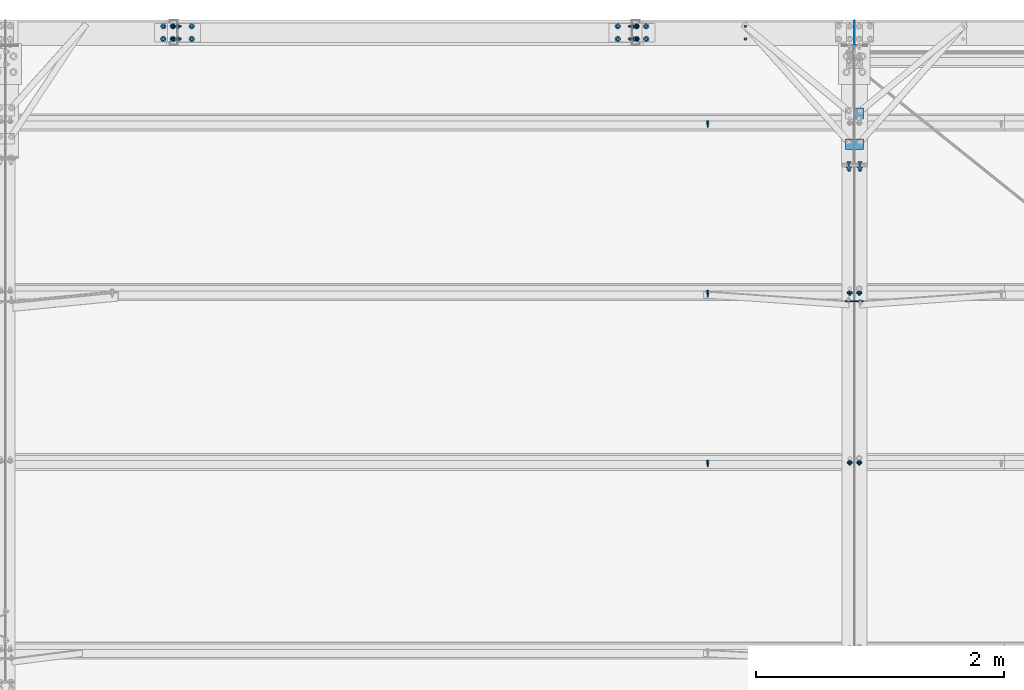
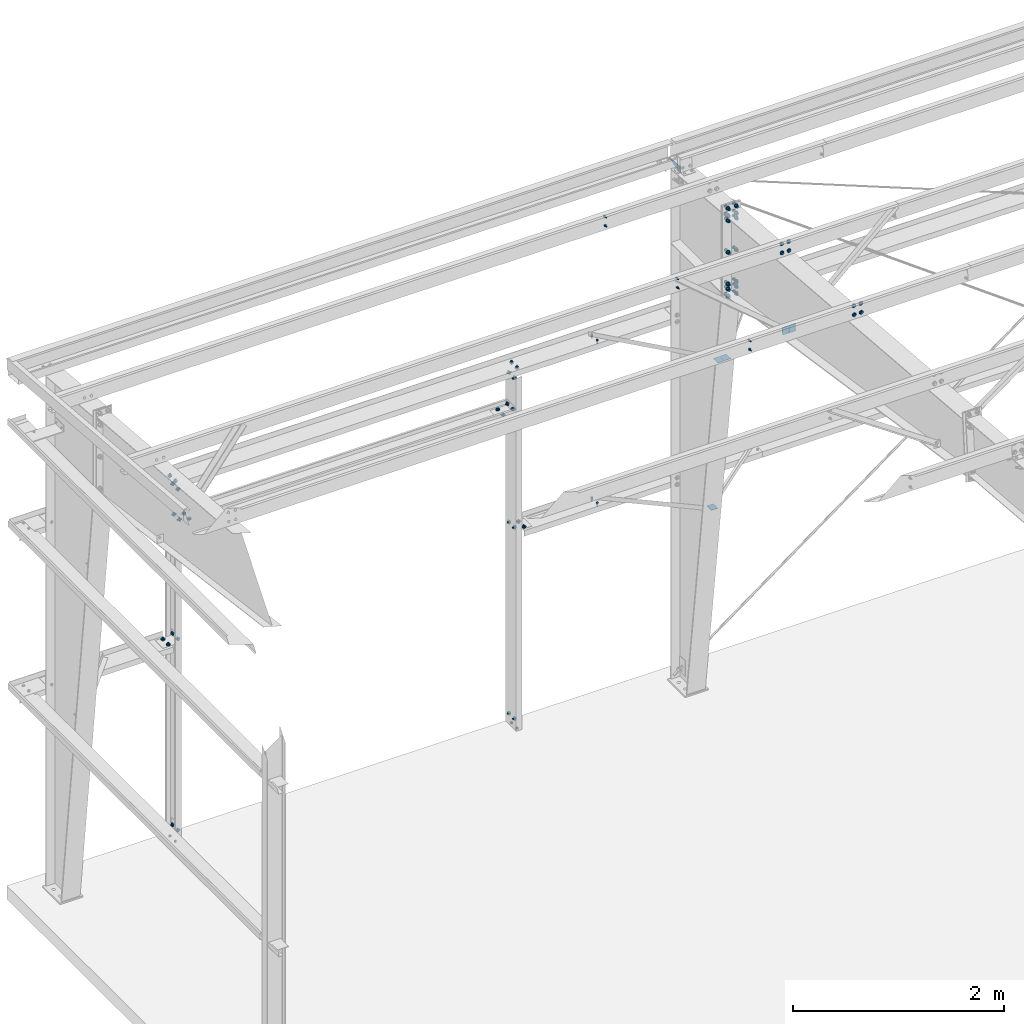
# One storey, part 87 of 185: 28 mechanical fasteners, 6 discrete accessories, 19 elements without a shape of their own.
"""IFC2X3 building model written with IfcOpenShell, lengths in millimetres."""

from ifc_helpers import new_model, si_unit, frame, origin_with_axes, origin_2d_with_axis, place, context, subcontext, project, spatial, polyline, rectangle, circle, outline, extrude, source, transform, mapped, material, type_object, element, aggregate, save


model = new_model("IFC2X3")

# Units and contexts
model_context = context("Model", 3, precision=1e-05, world=origin_with_axes())
body_context = subcontext(model_context, "Body", "Model", "MODEL_VIEW")
ifc_project = project(units=[si_unit("LENGTHUNIT", "METRE", prefix="MILLI"), si_unit("AREAUNIT", "SQUARE_METRE"), si_unit("VOLUMEUNIT", "CUBIC_METRE"), si_unit("MASSUNIT", "GRAM", prefix="KILO"), si_unit("TIMEUNIT", "SECOND"), si_unit("PLANEANGLEUNIT", "RADIAN"), si_unit("SOLIDANGLEUNIT", "STERADIAN"), si_unit("THERMODYNAMICTEMPERATUREUNIT", "DEGREE_CELSIUS"), si_unit("LUMINOUSINTENSITYUNIT", "LUMEN")], contexts=[model_context])

# Site, building, storey
site_placement = place(None, origin_with_axes())
site = spatial("IfcSite", under=ifc_project, at=site_placement, Name="Undefined", CompositionType="ELEMENT")
building_placement = place(site_placement, origin_with_axes())
building = spatial("IfcBuilding", under=site, at=building_placement, Name="Undefined", CompositionType="ELEMENT")
storey_placement = place(building_placement, origin_with_axes())
storey = spatial("IfcBuildingStorey", under=building, at=storey_placement, Name="Undefined", CompositionType="ELEMENT", Elevation=0.0)

# Assembly, mechanical fastener
assembly_1_placement = place(storey_placement, origin_with_axes())
assembly_1 = element("IfcElementAssembly", 1, at=assembly_1_placement, inside=storey, Name="Steel Assembly", AssemblyPlace="NOTDEFINED", PredefinedType="RIGID_FRAME")
ifc_material_1 = material(Name="Undefined")
discrete_accessory_type_1 = type_object("IfcDiscreteAccessoryType", Name="Bolt assembly")
shared_shape_1 = source(origin_with_axes(), body_context, "Body", "SweptSolid", [
    extrude(circle(Radius=7.14374971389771, at=origin_2d_with_axis()), frame((0.0, -1.59000001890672, 0.0), z_axis=(0.0, 1.0, 0.0), x_axis=(1.0, 0.0, 0.0)), (0.0, 0.0, 1.0), 3.3),
    extrude(circle(Radius=13.4937496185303, at=origin_2d_with_axis()), frame((0.0, -5.5587500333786, 0.0), z_axis=(0.0, 1.0, 0.0), x_axis=(1.0, 0.0, 0.0)), (0.0, 0.0, 1.0), 4.0),
    extrude(circle(Radius=22.2250003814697, at=origin_2d_with_axis()), frame((0.0, 1.5900000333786, 0.0), z_axis=(0.0, 1.0, 0.0), x_axis=(1.0, 0.0, 0.0)), (0.0, 0.0, 1.0), 7.9),
    extrude(outline(polyline([(12.8316099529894, 0.0), (6.4158049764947, 11.1125001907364), (-6.4158049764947, 11.1125001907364), (-12.8316099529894, 0.0), (-6.4158049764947, -11.1125001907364), (6.4158049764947, -11.1125001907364), (12.8316099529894, 0.0)])), frame((0.0, 9.5275000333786, 0.0), z_axis=(0.0, 1.0, 0.0), x_axis=(1.0, 0.0, 0.0)), (0.0, 0.0, 1.0), 12.3),
])
mechanical_fastener_1_placement = place(assembly_1_placement, frame((7200.9, 29818.2760586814, 6227.1675784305), z_axis=(-1.0, 0.0, 0.0), x_axis=(0.0, -0.0830454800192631, -0.996545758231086)))
mechanical_fastener_1 = element("IfcMechanicalFastener", 2, at=mechanical_fastener_1_placement, type_object=discrete_accessory_type_1, material=ifc_material_1, Name="Bolt assembly", NominalDiameter=12.6999998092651, NominalLength=38.0999984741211, context=body_context, shape_type="MappedRepresentation", body=[
    mapped(shared_shape_1, transform((0.0, 0.0, 0.0))),
    mapped(shared_shape_1, transform((101.599998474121, 0.0, 0.0))),
])
aggregate(assembly_1, [mechanical_fastener_1])

assembly_2_placement = place(storey_placement, origin_with_axes())
assembly_2 = element("IfcElementAssembly", 3, at=assembly_2_placement, inside=storey, Name="Steel Assembly", AssemblyPlace="NOTDEFINED", PredefinedType="RIGID_FRAME")
mechanical_fastener_2_placement = place(assembly_2_placement, frame((7277.1, 29818.2760586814, 6227.1675784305), z_axis=(-1.0, 0.0, 0.0), x_axis=(0.0, -0.0830454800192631, -0.996545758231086)))
mechanical_fastener_2 = element("IfcMechanicalFastener", 4, at=mechanical_fastener_2_placement, type_object=discrete_accessory_type_1, material=ifc_material_1, Name="Bolt assembly", NominalDiameter=12.6999998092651, NominalLength=38.0999984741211, context=body_context, shape_type="MappedRepresentation", body=[
    mapped(shared_shape_1, transform((0.0, 0.0, 0.0))),
    mapped(shared_shape_1, transform((101.599998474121, 0.0, 0.0))),
])

assembly_3_placement = place(storey_placement, origin_with_axes())
assembly_3 = element("IfcElementAssembly", 5, at=assembly_3_placement, inside=storey, Name="Steel Assembly", AssemblyPlace="NOTDEFINED", PredefinedType="RIGID_FRAME")
mechanical_fastener_3_placement = place(assembly_3_placement, frame((7200.9, 28451.4138966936, 6341.07275883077), z_axis=(-1.0, 0.0, 0.0), x_axis=(0.0, -0.0830454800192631, -0.996545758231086)))
mechanical_fastener_3 = element("IfcMechanicalFastener", 6, at=mechanical_fastener_3_placement, type_object=discrete_accessory_type_1, material=ifc_material_1, Name="Bolt assembly", NominalDiameter=12.6999998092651, NominalLength=38.0999984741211, context=body_context, shape_type="MappedRepresentation", body=[
    mapped(shared_shape_1, transform((0.0, 0.0, 0.0))),
    mapped(shared_shape_1, transform((101.599998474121, 0.0, 0.0))),
])
aggregate(assembly_3, [mechanical_fastener_3])

assembly_4_placement = place(storey_placement, origin_with_axes())
assembly_4 = element("IfcElementAssembly", 7, at=assembly_4_placement, inside=storey, Name="Steel Assembly", AssemblyPlace="NOTDEFINED", PredefinedType="RIGID_FRAME")
mechanical_fastener_4_placement = place(assembly_4_placement, frame((7277.1, 28451.4138966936, 6341.07275883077), z_axis=(-1.0, 0.0, 0.0), x_axis=(0.0, -0.0830454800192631, -0.996545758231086)))
mechanical_fastener_4 = element("IfcMechanicalFastener", 8, at=mechanical_fastener_4_placement, type_object=discrete_accessory_type_1, material=ifc_material_1, Name="Bolt assembly", NominalDiameter=12.6999998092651, NominalLength=38.0999984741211, context=body_context, shape_type="MappedRepresentation", body=[
    mapped(shared_shape_1, transform((0.0, 0.0, 0.0))),
    mapped(shared_shape_1, transform((101.599998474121, 0.0, 0.0))),
])

# Assembly, mechanical fasteners
assembly_5_placement = place(storey_placement, origin_with_axes())
assembly_5 = element("IfcElementAssembly", 9, at=assembly_5_placement, inside=storey, Name="Steel Assembly", AssemblyPlace="NOTDEFINED", PredefinedType="RIGID_FRAME")
shared_shape_2 = source(origin_with_axes(), body_context, "Body", "SweptSolid", [
    extrude(circle(Radius=7.14374971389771, at=origin_2d_with_axis()), frame((0.0, -3.08000006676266, 0.0), z_axis=(0.0, 1.0, 0.0), x_axis=(1.0, 0.0, 0.0)), (0.0, 0.0, 1.0), 3.2),
    extrude(circle(Radius=7.14374971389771, at=origin_2d_with_axis()), frame((0.0, -0.1, 0.0), z_axis=(0.0, 1.0, 0.0), x_axis=(1.0, 0.0, 0.0)), (0.0, 0.0, 1.0), 3.3),
    extrude(outline(polyline([(10.9985221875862, 0.0), (5.4992610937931, 9.52499961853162), (-5.4992610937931, 9.52499961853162), (-10.9985221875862, 0.0), (-5.4992610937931, -9.52499961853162), (5.4992610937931, -9.52499961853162), (10.9985221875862, 0.0)])), frame((0.0, -16.6737496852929, 0.0), z_axis=(0.0, 1.0, 0.0), x_axis=(1.0, 0.0, 0.0)), (0.0, 0.0, 1.0), 9.5),
    extrude(circle(Radius=6.34999990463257, at=origin_2d_with_axis()), frame((0.0, -7.14875006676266, 0.0), z_axis=(0.0, 1.0, 0.0), x_axis=(1.0, 0.0, 0.0)), (0.0, 0.0, 1.0), 38.1),
    extrude(circle(Radius=13.4937496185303, at=origin_2d_with_axis()), frame((0.0, -7.14875006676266, 0.0), z_axis=(0.0, 1.0, 0.0), x_axis=(1.0, 0.0, 0.0)), (0.0, 0.0, 1.0), 4.0),
    extrude(circle(Radius=22.2250003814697, at=origin_2d_with_axis()), frame((0.0, 3.17500610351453, 0.0), z_axis=(0.0, 1.0, 0.0), x_axis=(1.0, 0.0, 0.0)), (0.0, 0.0, 1.0), 7.9),
    extrude(outline(polyline([(12.8316099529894, 0.0), (6.4158049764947, 11.1125001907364), (-6.4158049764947, 11.1125001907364), (-12.8316099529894, 0.0), (-6.4158049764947, -11.1125001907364), (6.4158049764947, -11.1125001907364), (12.8316099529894, 0.0)])), frame((0.0, 11.1125061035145, 0.0), z_axis=(0.0, 1.0, 0.0), x_axis=(1.0, 0.0, 0.0)), (0.0, 0.0, 1.0), 12.3),
])
mechanical_fastener_5_placement = place(assembly_5_placement, frame((1752.6, 31902.4, 4164.00999996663), z_axis=(0.0, -1.0, 0.0), x_axis=(-1.0, 0.0, 0.0)))
mechanical_fastener_5 = element("IfcMechanicalFastener", 10, at=mechanical_fastener_5_placement, type_object=discrete_accessory_type_1, material=ifc_material_1, Name="Bolt assembly", NominalDiameter=12.6999998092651, NominalLength=38.0999984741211, context=body_context, shape_type="MappedRepresentation", body=[
    mapped(shared_shape_2, transform((0.0, 0.0, -50.7999992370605))),
    mapped(shared_shape_2, transform((0.0, 0.0, 50.7999992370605))),
])
mechanical_fastener_6_placement = place(assembly_5_placement, frame((1787.51999969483, 31902.4, 4051.3), z_axis=(0.0, 1.0, 0.0), x_axis=(0.0, 0.0, -1.0)))
mechanical_fastener_6 = element("IfcMechanicalFastener", 11, at=mechanical_fastener_6_placement, type_object=discrete_accessory_type_1, material=ifc_material_1, Name="Bolt assembly", NominalDiameter=12.6999998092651, NominalLength=38.0999984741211, context=body_context, shape_type="MappedRepresentation", body=[
    mapped(shared_shape_2, transform((0.0, 0.0, -50.7999992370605))),
    mapped(shared_shape_2, transform((0.0, 0.0, 50.7999992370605))),
])
aggregate(assembly_5, [mechanical_fastener_5, mechanical_fastener_6])

# Assembly, mechanical fastener
assembly_6_placement = place(storey_placement, origin_with_axes())
assembly_6 = element("IfcElementAssembly", 12, at=assembly_6_placement, inside=storey, Name="Steel Assembly", AssemblyPlace="NOTDEFINED", PredefinedType="RIGID_FRAME")
mechanical_fastener_7_placement = place(assembly_6_placement, frame((1790.7, 31902.4, 3695.7), z_axis=(0.0, 1.0, 0.0), x_axis=(0.0, 0.0, 1.0)))
mechanical_fastener_7 = element("IfcMechanicalFastener", 13, at=mechanical_fastener_7_placement, type_object=discrete_accessory_type_1, material=ifc_material_1, Name="Bolt assembly", NominalDiameter=12.6999998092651, NominalLength=38.0999984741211, context=body_context, shape_type="MappedRepresentation", body=[
    mapped(shared_shape_2, transform((0.0, 0.0, -50.7999992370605))),
    mapped(shared_shape_2, transform((0.0, 0.0, 50.7999992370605))),
])

assembly_7_placement = place(storey_placement, origin_with_axes())
assembly_7 = element("IfcElementAssembly", 14, at=assembly_7_placement, inside=storey, Name="Steel Assembly", AssemblyPlace="NOTDEFINED", PredefinedType="RIGID_FRAME")
mechanical_fastener_8_placement = place(assembly_7_placement, frame((1676.4, 31902.4, 2287.59000003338), z_axis=(0.0, 1.0, 0.0), x_axis=(-1.0, 0.0, 0.0)))
mechanical_fastener_8 = element("IfcMechanicalFastener", 15, at=mechanical_fastener_8_placement, type_object=discrete_accessory_type_1, material=ifc_material_1, Name="Bolt assembly", NominalDiameter=12.6999998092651, NominalLength=38.0999984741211, context=body_context, shape_type="MappedRepresentation", body=[
    mapped(shared_shape_2, transform((0.0, 0.0, -50.7999992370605))),
    mapped(shared_shape_2, transform((0.0, 0.0, 50.7999992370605))),
])

assembly_8_placement = place(storey_placement, origin_with_axes())
assembly_8 = element("IfcElementAssembly", 16, at=assembly_8_placement, inside=storey, Name="Steel Assembly", AssemblyPlace="NOTDEFINED", PredefinedType="RIGID_FRAME")
mechanical_fastener_9_placement = place(assembly_8_placement, frame((5562.6, 31902.4, 2287.59000003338), z_axis=(0.0, -1.0, 0.0), x_axis=(1.0, 0.0, 0.0)))
mechanical_fastener_9 = element("IfcMechanicalFastener", 17, at=mechanical_fastener_9_placement, type_object=discrete_accessory_type_1, material=ifc_material_1, Name="Bolt assembly", NominalDiameter=12.6999998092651, NominalLength=38.0999984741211, context=body_context, shape_type="MappedRepresentation", body=[
    mapped(shared_shape_2, transform((0.0, 0.0, -50.7999992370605))),
    mapped(shared_shape_2, transform((0.0, 0.0, 50.7999992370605))),
])

assembly_9_placement = place(storey_placement, origin_with_axes())
assembly_9 = element("IfcElementAssembly", 18, at=assembly_9_placement, inside=storey, Name="Steel Assembly", AssemblyPlace="NOTDEFINED", PredefinedType="RIGID_FRAME")
mechanical_fastener_10_placement = place(assembly_9_placement, frame((5448.3, 31902.4, 3695.7), z_axis=(0.0, -1.0, 0.0), x_axis=(0.0, 0.0, 1.0)))
mechanical_fastener_10 = element("IfcMechanicalFastener", 19, at=mechanical_fastener_10_placement, type_object=discrete_accessory_type_1, material=ifc_material_1, Name="Bolt assembly", NominalDiameter=12.6999998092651, NominalLength=38.0999984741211, context=body_context, shape_type="MappedRepresentation", body=[
    mapped(shared_shape_2, transform((0.0, 0.0, -50.7999992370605))),
    mapped(shared_shape_2, transform((0.0, 0.0, 50.7999992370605))),
])

# Assembly, mechanical fasteners
assembly_10_placement = place(storey_placement, origin_with_axes())
assembly_10 = element("IfcElementAssembly", 20, at=assembly_10_placement, inside=storey, Name="Steel Assembly", AssemblyPlace="NOTDEFINED", PredefinedType="RIGID_FRAME")
mechanical_fastener_11_placement = place(assembly_10_placement, frame((5486.4, 31902.4, 4164.00999996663), z_axis=(0.0, 1.0, 0.0), x_axis=(1.0, 0.0, 0.0)))
mechanical_fastener_11 = element("IfcMechanicalFastener", 21, at=mechanical_fastener_11_placement, type_object=discrete_accessory_type_1, material=ifc_material_1, Name="Bolt assembly", NominalDiameter=12.6999998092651, NominalLength=38.0999984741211, context=body_context, shape_type="MappedRepresentation", body=[
    mapped(shared_shape_2, transform((0.0, 0.0, -50.7999992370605))),
    mapped(shared_shape_2, transform((0.0, 0.0, 50.7999992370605))),
])
mechanical_fastener_12_placement = place(assembly_10_placement, frame((5451.48000030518, 31902.4, 4051.3), z_axis=(0.0, -1.0, 0.0), x_axis=(0.0, 0.0, -1.0)))
mechanical_fastener_12 = element("IfcMechanicalFastener", 22, at=mechanical_fastener_12_placement, type_object=discrete_accessory_type_1, material=ifc_material_1, Name="Bolt assembly", NominalDiameter=12.6999998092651, NominalLength=38.0999984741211, context=body_context, shape_type="MappedRepresentation", body=[
    mapped(shared_shape_2, transform((0.0, 0.0, -50.7999992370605))),
    mapped(shared_shape_2, transform((0.0, 0.0, 50.7999992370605))),
])
aggregate(assembly_10, [mechanical_fastener_11, mechanical_fastener_12])

# Assembly, mechanical fastener
assembly_11_placement = place(storey_placement, origin_with_axes())
assembly_11 = element("IfcElementAssembly", 23, at=assembly_11_placement, inside=storey, Name="Steel Assembly", AssemblyPlace="NOTDEFINED", PredefinedType="RIGID_FRAME")
shared_shape_3 = source(origin_with_axes(), body_context, "Body", "SweptSolid", [
    extrude(circle(Radius=7.14374971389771, at=origin_2d_with_axis()), frame((0.0, -3.17500610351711, 0.0), z_axis=(0.0, 1.0, 0.0), x_axis=(1.0, 0.0, 0.0)), (0.0, 0.0, 1.0), 3.3),
    extrude(outline(polyline([(12.8316099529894, 0.0), (6.4158049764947, 11.1125001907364), (-6.4158049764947, 11.1125001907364), (-12.8316099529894, 0.0), (-6.4158049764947, -11.1125001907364), (6.4158049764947, -11.1125001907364), (12.8316099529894, 0.0)])), frame((0.0, 0.0, 0.0), z_axis=(0.0, 1.0, 0.0), x_axis=(1.0, 0.0, 0.0)), (0.0, 0.0, 1.0), 12.3),
])
mechanical_fastener_13_placement = place(assembly_11_placement, frame((5486.4, 31902.4, 0.0), z_axis=(0.0, 1.0, 0.0), x_axis=(1.0, 0.0, 0.0)))
mechanical_fastener_13 = element("IfcMechanicalFastener", 24, at=mechanical_fastener_13_placement, type_object=discrete_accessory_type_1, material=ifc_material_1, Name="Bolt assembly", NominalDiameter=12.6999998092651, NominalLength=38.0999984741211, context=body_context, shape_type="MappedRepresentation", body=[
    mapped(shared_shape_3, transform((0.0, 0.0, -50.7999992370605))),
    mapped(shared_shape_3, transform((0.0, 0.0, 50.7999992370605))),
])
aggregate(assembly_11, [mechanical_fastener_13])

assembly_12_placement = place(storey_placement, origin_with_axes())
assembly_12 = element("IfcElementAssembly", 25, at=assembly_12_placement, inside=storey, Name="Steel Assembly", AssemblyPlace="NOTDEFINED", PredefinedType="RIGID_FRAME")
mechanical_fastener_14_placement = place(assembly_12_placement, frame((1752.6, 31902.4, 0.0), z_axis=(0.0, -1.0, 0.0), x_axis=(-1.0, 0.0, 0.0)))
mechanical_fastener_14 = element("IfcMechanicalFastener", 26, at=mechanical_fastener_14_placement, type_object=discrete_accessory_type_1, material=ifc_material_1, Name="Bolt assembly", NominalDiameter=12.6999998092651, NominalLength=38.0999984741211, context=body_context, shape_type="MappedRepresentation", body=[
    mapped(shared_shape_3, transform((0.0, 0.0, -50.7999992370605))),
    mapped(shared_shape_3, transform((0.0, 0.0, 50.7999992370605))),
])
aggregate(assembly_12, [mechanical_fastener_14])

assembly_13_placement = place(storey_placement, origin_with_axes())
assembly_13 = element("IfcElementAssembly", 27, at=assembly_13_placement, inside=storey, Name="Steel Assembly", AssemblyPlace="NOTDEFINED", PredefinedType="RIGID_FRAME")
shared_shape_4 = source(origin_with_axes(), body_context, "Body", "SweptSolid", [
    extrude(circle(Radius=7.14374971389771, at=origin_2d_with_axis()), frame((0.0, -0.1, 0.0), z_axis=(0.0, 1.0, 0.0), x_axis=(1.0, 0.0, 0.0)), (0.0, 0.0, 1.0), 3.3),
    extrude(circle(Radius=7.14374971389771, at=origin_2d_with_axis()), frame((0.0, -3.07500000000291, 0.0), z_axis=(0.0, 1.0, 0.0), x_axis=(1.0, 0.0, 0.0)), (0.0, 0.0, 1.0), 3.2),
    extrude(outline(polyline([(10.9985221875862, 0.0), (5.4992610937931, 9.52499961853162), (-5.4992610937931, 9.52499961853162), (-10.9985221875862, 0.0), (-5.4992610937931, -9.52499961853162), (5.4992610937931, -9.52499961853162), (10.9985221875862, 0.0)])), frame((0.0, -11.1125000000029, 0.0), z_axis=(0.0, 1.0, 0.0), x_axis=(1.0, 0.0, 0.0)), (0.0, 0.0, 1.0), 7.9),
    extrude(circle(Radius=6.34999990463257, at=origin_2d_with_axis()), frame((0.0, -3.17500610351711, 0.0), z_axis=(0.0, 1.0, 0.0), x_axis=(1.0, 0.0, 0.0)), (0.0, 0.0, 1.0), 25.4),
    extrude(circle(Radius=22.2250003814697, at=origin_2d_with_axis()), frame((0.0, 3.17500610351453, 0.0), z_axis=(0.0, 1.0, 0.0), x_axis=(1.0, 0.0, 0.0)), (0.0, 0.0, 1.0), 7.9),
    extrude(outline(polyline([(12.8316099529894, 0.0), (6.4158049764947, 11.1125001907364), (-6.4158049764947, 11.1125001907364), (-12.8316099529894, 0.0), (-6.4158049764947, -11.1125001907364), (6.4158049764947, -11.1125001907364), (12.8316099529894, 0.0)])), frame((0.0, 11.1125061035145, 0.0), z_axis=(0.0, 1.0, 0.0), x_axis=(1.0, 0.0, 0.0)), (0.0, 0.0, 1.0), 12.3),
])
mechanical_fastener_15_placement = place(assembly_13_placement, frame((5451.475, 31902.4, 114.3), z_axis=(0.0, 1.0, 0.0), x_axis=(0.0, 0.0, 1.0)))
mechanical_fastener_15 = element("IfcMechanicalFastener", 28, at=mechanical_fastener_15_placement, type_object=discrete_accessory_type_1, material=ifc_material_1, Name="Bolt assembly", NominalDiameter=12.6999998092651, NominalLength=25.3999996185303, context=body_context, shape_type="MappedRepresentation", body=[
    mapped(shared_shape_4, transform((0.0, 0.0, -50.7999992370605))),
    mapped(shared_shape_4, transform((0.0, 0.0, 50.7999992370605))),
])
aggregate(assembly_13, [mechanical_fastener_15])

assembly_14_placement = place(storey_placement, origin_with_axes())
assembly_14 = element("IfcElementAssembly", 29, at=assembly_14_placement, inside=storey, Name="Steel Assembly", AssemblyPlace="NOTDEFINED", PredefinedType="RIGID_FRAME")
mechanical_fastener_16_placement = place(assembly_14_placement, frame((1787.525, 31902.4, 114.3), z_axis=(0.0, -1.0, 0.0), x_axis=(0.0, 0.0, 1.0)))
mechanical_fastener_16 = element("IfcMechanicalFastener", 30, at=mechanical_fastener_16_placement, type_object=discrete_accessory_type_1, material=ifc_material_1, Name="Bolt assembly", NominalDiameter=12.6999998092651, NominalLength=25.3999996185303, context=body_context, shape_type="MappedRepresentation", body=[
    mapped(shared_shape_4, transform((0.0, 0.0, -50.7999992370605))),
    mapped(shared_shape_4, transform((0.0, 0.0, 50.7999992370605))),
])
aggregate(assembly_14, [mechanical_fastener_16])

# Mechanical fastener
shared_shape_5 = source(origin_with_axes(), body_context, "Body", "SweptSolid", [
    extrude(circle(Radius=7.14374971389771, at=origin_2d_with_axis()), frame((0.0, -3.08000006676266, 0.0), z_axis=(0.0, 1.0, 0.0), x_axis=(1.0, 0.0, 0.0)), (0.0, 0.0, 1.0), 3.2),
    extrude(circle(Radius=7.14374971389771, at=origin_2d_with_axis()), frame((0.0, -0.1, 0.0), z_axis=(0.0, 1.0, 0.0), x_axis=(1.0, 0.0, 0.0)), (0.0, 0.0, 1.0), 3.3),
    extrude(outline(polyline([(10.9985221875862, 0.0), (5.4992610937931, 9.52499961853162), (-5.4992610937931, 9.52499961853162), (-10.9985221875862, 0.0), (-5.4992610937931, -9.52499961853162), (5.4992610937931, -9.52499961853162), (10.9985221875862, 0.0)])), frame((0.0, -11.1175003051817, 0.0), z_axis=(0.0, 1.0, 0.0), x_axis=(1.0, 0.0, 0.0)), (0.0, 0.0, 1.0), 7.9),
    extrude(circle(Radius=6.34999990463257, at=origin_2d_with_axis()), frame((0.0, -3.18000030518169, 0.0), z_axis=(0.0, 1.0, 0.0), x_axis=(1.0, 0.0, 0.0)), (0.0, 0.0, 1.0), 25.4),
    extrude(circle(Radius=22.2250003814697, at=origin_2d_with_axis()), frame((0.0, 3.17500610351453, 0.0), z_axis=(0.0, 1.0, 0.0), x_axis=(1.0, 0.0, 0.0)), (0.0, 0.0, 1.0), 7.9),
    extrude(outline(polyline([(12.8316099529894, 0.0), (6.4158049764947, 11.1125001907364), (-6.4158049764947, 11.1125001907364), (-12.8316099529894, 0.0), (-6.4158049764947, -11.1125001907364), (6.4158049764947, -11.1125001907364), (12.8316099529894, 0.0)])), frame((0.0, 11.1125061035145, 0.0), z_axis=(0.0, 1.0, 0.0), x_axis=(1.0, 0.0, 0.0)), (0.0, 0.0, 1.0), 12.3),
])
mechanical_fastener_17_placement = place(assembly_6_placement, frame((1905.0, 31902.4, 3660.78000030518), z_axis=(0.0, -1.0, 0.0), x_axis=(1.0, 0.0, 0.0)))
mechanical_fastener_17 = element("IfcMechanicalFastener", 31, at=mechanical_fastener_17_placement, type_object=discrete_accessory_type_1, material=ifc_material_1, Name="Bolt assembly", NominalDiameter=12.6999998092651, NominalLength=25.3999996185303, context=body_context, shape_type="MappedRepresentation", body=[
    mapped(shared_shape_5, transform((0.0, 0.0, -50.7999992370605))),
    mapped(shared_shape_5, transform((0.0, 0.0, 50.7999992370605))),
])

aggregate(assembly_6, [mechanical_fastener_7, mechanical_fastener_17])

mechanical_fastener_18_placement = place(assembly_7_placement, frame((1787.51999969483, 31902.4, 2324.1), z_axis=(0.0, -1.0, 0.0), x_axis=(0.0, 0.0, 1.0)))
mechanical_fastener_18 = element("IfcMechanicalFastener", 32, at=mechanical_fastener_18_placement, type_object=discrete_accessory_type_1, material=ifc_material_1, Name="Bolt assembly", NominalDiameter=12.6999998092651, NominalLength=25.3999996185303, context=body_context, shape_type="MappedRepresentation", body=[
    mapped(shared_shape_5, transform((0.0, 0.0, -50.7999992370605))),
    mapped(shared_shape_5, transform((0.0, 0.0, 50.7999992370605))),
])

aggregate(assembly_7, [mechanical_fastener_18, mechanical_fastener_8])

mechanical_fastener_19_placement = place(assembly_8_placement, frame((5451.48000030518, 31902.4, 2324.1), z_axis=(0.0, 1.0, 0.0), x_axis=(0.0, 0.0, 1.0)))
mechanical_fastener_19 = element("IfcMechanicalFastener", 33, at=mechanical_fastener_19_placement, type_object=discrete_accessory_type_1, material=ifc_material_1, Name="Bolt assembly", NominalDiameter=12.6999998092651, NominalLength=25.3999996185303, context=body_context, shape_type="MappedRepresentation", body=[
    mapped(shared_shape_5, transform((0.0, 0.0, -50.7999992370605))),
    mapped(shared_shape_5, transform((0.0, 0.0, 50.7999992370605))),
])

aggregate(assembly_8, [mechanical_fastener_19, mechanical_fastener_9])

mechanical_fastener_20_placement = place(assembly_9_placement, frame((5334.0, 31902.4, 3660.78000030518), z_axis=(0.0, 1.0, 0.0), x_axis=(-1.0, 0.0, 0.0)))
mechanical_fastener_20 = element("IfcMechanicalFastener", 34, at=mechanical_fastener_20_placement, type_object=discrete_accessory_type_1, material=ifc_material_1, Name="Bolt assembly", NominalDiameter=12.6999998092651, NominalLength=25.3999996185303, context=body_context, shape_type="MappedRepresentation", body=[
    mapped(shared_shape_5, transform((0.0, 0.0, -50.7999992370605))),
    mapped(shared_shape_5, transform((0.0, 0.0, 50.7999992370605))),
])

aggregate(assembly_9, [mechanical_fastener_10, mechanical_fastener_20])

# Assembly, discrete accessories
assembly_15_placement = place(storey_placement, origin_with_axes())
assembly_15 = element("IfcElementAssembly", 35, at=assembly_15_placement, inside=storey, Name="Steel Assembly", AssemblyPlace="NOTDEFINED", PredefinedType="RIGID_FRAME")
ifc_material_2 = material(Name="STEEL/55")
discrete_accessory_type_2 = type_object("IfcDiscreteAccessoryType", Name="FLANGE BRACE FLIP")
discrete_accessory_1_placement = place(assembly_15_placement, frame((7241.38125, 31251.9277679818, 2284.292), z_axis=(0.0, 1.0, 0.0), x_axis=(1.0, 0.0, 0.0)))
discrete_accessory_1 = element("IfcDiscreteAccessory", 36, at=discrete_accessory_1_placement, type_object=discrete_accessory_type_2, material=ifc_material_2, Name="FLANGE BRACE FLIP", ObjectType="PL1/8\"X2 3/4\"", context=body_context, shape_type="SweptSolid", body=[
    extrude(rectangle(XDim=3.416, YDim=85.725, at=origin_2d_with_axis()), frame((69.8499999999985, 0.0, 0.0), z_axis=(-1.0, 0.0, 0.0), x_axis=(0.0, -1.0, 0.0)), (0.0, 0.0, 1.0), 69.9),
])
discrete_accessory_2_placement = place(assembly_15_placement, frame((7241.38125, 31003.9296133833, 4163.892), z_axis=(0.0, 1.0, 0.0), x_axis=(1.0, 0.0, 0.0)))
discrete_accessory_2 = element("IfcDiscreteAccessory", 37, at=discrete_accessory_2_placement, type_object=discrete_accessory_type_2, material=ifc_material_2, Name="FLANGE BRACE FLIP", ObjectType="PL1/8\"X2 3/4\"", context=body_context, shape_type="SweptSolid", body=[
    extrude(rectangle(XDim=3.416, YDim=85.725, at=origin_2d_with_axis()), frame((69.8499999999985, 0.0, 0.0), z_axis=(-1.0, 0.0, 0.0), x_axis=(0.0, -1.0, 0.0)), (0.0, 0.0, 1.0), 69.9),
])
discrete_accessory_3_placement = place(assembly_15_placement, frame((7236.61875, 31003.9296133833, 4163.892), z_axis=(0.0, 1.0, 0.0), x_axis=(-1.0, 0.0, 0.0)))
discrete_accessory_3 = element("IfcDiscreteAccessory", 38, at=discrete_accessory_3_placement, type_object=discrete_accessory_type_2, material=ifc_material_2, Name="FLANGE BRACE FLIP", ObjectType="PL1/8\"X2 3/4\"", context=body_context, shape_type="SweptSolid", body=[
    extrude(rectangle(XDim=3.416, YDim=85.725, at=origin_2d_with_axis()), frame((69.8499999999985, 0.0, 0.0), z_axis=(-1.0, 0.0, 0.0), x_axis=(0.0, -1.0, 0.0)), (0.0, 0.0, 1.0), 69.9),
])

assembly_16_placement = place(storey_placement, origin_with_axes())
assembly_16 = element("IfcElementAssembly", 39, at=assembly_16_placement, inside=storey, Name="Steel Assembly", AssemblyPlace="NOTDEFINED", PredefinedType="RIGID_FRAME")
discrete_accessory_4_placement = place(assembly_16_placement, frame((7236.619, 29740.2521226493, 5270.31330232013), z_axis=(0.0, 0.0830454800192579, 0.996545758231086), x_axis=(-1.0, 0.0, 0.0)))
discrete_accessory_4 = element("IfcDiscreteAccessory", 40, at=discrete_accessory_4_placement, type_object=discrete_accessory_type_2, material=ifc_material_2, Name="FLANGE BRACE FLIP", ObjectType="PL1/8\"X2 3/4\"", context=body_context, shape_type="SweptSolid", body=[
    extrude(rectangle(XDim=3.416, YDim=85.725, at=origin_2d_with_axis()), frame((69.8499999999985, 0.0, 0.0), z_axis=(-1.0, 0.0, 0.0), x_axis=(0.0, -1.0, 0.0)), (0.0, 0.0, 1.0), 69.9),
])
discrete_accessory_5_placement = place(assembly_16_placement, frame((7241.381, 29740.2521226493, 5270.31330232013), z_axis=(0.0, 0.0830454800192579, 0.996545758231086), x_axis=(1.0, 0.0, 0.0)))
discrete_accessory_5 = element("IfcDiscreteAccessory", 41, at=discrete_accessory_5_placement, type_object=discrete_accessory_type_2, material=ifc_material_2, Name="FLANGE BRACE FLIP", ObjectType="PL1/8\"X2 3/4\"", context=body_context, shape_type="SweptSolid", body=[
    extrude(rectangle(XDim=3.416, YDim=85.725, at=origin_2d_with_axis()), frame((69.8499999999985, 0.0, 0.0), z_axis=(-1.0, 0.0, 0.0), x_axis=(0.0, -1.0, 0.0)), (0.0, 0.0, 1.0), 69.9),
])
aggregate(assembly_16, [discrete_accessory_4, discrete_accessory_5])

# Assembly, mechanical fastener
assembly_17_placement = place(storey_placement, origin_with_axes())
assembly_17 = element("IfcElementAssembly", 42, at=assembly_17_placement, inside=storey, Name="Steel Assembly", AssemblyPlace="NOTDEFINED", PredefinedType="RIGID_FRAME")
shared_shape_6 = source(origin_with_axes(), body_context, "Body", "SweptSolid", [
    extrude(circle(Radius=7.14374971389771, at=origin_2d_with_axis()), frame((0.0, -1.4900000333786, 0.0), z_axis=(0.0, 1.0, 0.0), x_axis=(1.0, 0.0, 0.0)), (0.0, 0.0, 1.0), 3.2),
    extrude(circle(Radius=7.14374971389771, at=origin_2d_with_axis()), frame((0.0, -1.4900000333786, 0.0), z_axis=(0.0, 1.0, 0.0), x_axis=(1.0, 0.0, 0.0)), (0.0, 0.0, 1.0), 3.2),
    extrude(outline(polyline([(10.9985221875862, 0.0), (5.4992610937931, 9.52499961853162), (-5.4992610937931, 9.52499961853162), (-10.9985221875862, 0.0), (-5.4992610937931, -9.52499961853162), (5.4992610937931, -9.52499961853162), (10.9985221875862, 0.0)])), frame((0.0, -11.1149996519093, 0.0), z_axis=(0.0, 1.0, 0.0), x_axis=(1.0, 0.0, 0.0)), (0.0, 0.0, 1.0), 9.5),
    extrude(circle(Radius=6.34999990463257, at=origin_2d_with_axis()), frame((0.0, -1.59000001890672, 0.0), z_axis=(0.0, 1.0, 0.0), x_axis=(1.0, 0.0, 0.0)), (0.0, 0.0, 1.0), 38.1),
    extrude(outline(polyline([(12.8316099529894, 0.0), (6.4158049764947, 11.1125001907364), (-6.4158049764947, 11.1125001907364), (-12.8316099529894, 0.0), (-6.4158049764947, -11.1125001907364), (6.4158049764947, -11.1125001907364), (12.8316099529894, 0.0)])), frame((0.0, 1.5900000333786, 0.0), z_axis=(0.0, 1.0, 0.0), x_axis=(1.0, 0.0, 0.0)), (0.0, 0.0, 1.0), 12.3),
])
mechanical_fastener_21_placement = place(assembly_17_placement, frame((6362.7, 31953.2, 2286.0), z_axis=(1.0, 0.0, 0.0), x_axis=(0.0, -1.0, 0.0)))
mechanical_fastener_21 = element("IfcMechanicalFastener", 43, at=mechanical_fastener_21_placement, type_object=discrete_accessory_type_1, material=ifc_material_1, Name="Bolt assembly", NominalDiameter=12.6999998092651, NominalLength=38.0999984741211, context=body_context, shape_type="MappedRepresentation", body=[
    mapped(shared_shape_6, transform((0.0, 0.0, 0.0))),
    mapped(shared_shape_6, transform((101.599998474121, 0.0, 0.0))),
])
aggregate(assembly_17, [mechanical_fastener_21])

assembly_18_placement = place(storey_placement, origin_with_axes())
assembly_18 = element("IfcElementAssembly", 44, at=assembly_18_placement, inside=storey, Name="Steel Assembly", AssemblyPlace="NOTDEFINED", PredefinedType="RIGID_FRAME")
mechanical_fastener_22_placement = place(assembly_18_placement, frame((6362.7, 31953.2, 4165.6), z_axis=(1.0, 0.0, 0.0), x_axis=(0.0, -1.0, 0.0)))
mechanical_fastener_22 = element("IfcMechanicalFastener", 45, at=mechanical_fastener_22_placement, type_object=discrete_accessory_type_1, material=ifc_material_1, Name="Bolt assembly", NominalDiameter=12.6999998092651, NominalLength=38.0999984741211, context=body_context, shape_type="MappedRepresentation", body=[
    mapped(shared_shape_6, transform((0.0, 0.0, 0.0))),
    mapped(shared_shape_6, transform((101.599998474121, 0.0, 0.0))),
])
aggregate(assembly_18, [mechanical_fastener_22])

assembly_19_placement = place(storey_placement, origin_with_axes())
assembly_19 = element("IfcElementAssembly", 46, at=assembly_19_placement, inside=storey, Name="Steel Assembly", AssemblyPlace="NOTDEFINED", PredefinedType="RIGID_FRAME")
mechanical_fastener_23_placement = place(assembly_19_placement, frame((6057.9, 31185.1382206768, 6113.2623980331), z_axis=(-1.0, 0.0, 0.0), x_axis=(0.0, -0.0830454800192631, -0.996545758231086)))
mechanical_fastener_23 = element("IfcMechanicalFastener", 47, at=mechanical_fastener_23_placement, type_object=discrete_accessory_type_1, material=ifc_material_1, Name="Bolt assembly", NominalDiameter=12.6999998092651, NominalLength=38.0999984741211, context=body_context, shape_type="MappedRepresentation", body=[
    mapped(shared_shape_6, transform((0.0, 0.0, 0.0))),
    mapped(shared_shape_6, transform((101.599998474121, 0.0, 0.0))),
])
aggregate(assembly_19, [mechanical_fastener_23])

# Mechanical fastener
mechanical_fastener_24_placement = place(assembly_2_placement, frame((6057.9, 29818.2760586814, 6227.1675784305), z_axis=(-1.0, 0.0, 0.0), x_axis=(0.0, -0.0830454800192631, -0.996545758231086)))
mechanical_fastener_24 = element("IfcMechanicalFastener", 48, at=mechanical_fastener_24_placement, type_object=discrete_accessory_type_1, material=ifc_material_1, Name="Bolt assembly", NominalDiameter=12.6999998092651, NominalLength=38.0999984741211, context=body_context, shape_type="MappedRepresentation", body=[
    mapped(shared_shape_6, transform((0.0, 0.0, 0.0))),
    mapped(shared_shape_6, transform((101.599998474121, 0.0, 0.0))),
])

aggregate(assembly_2, [mechanical_fastener_2, mechanical_fastener_24])

mechanical_fastener_25_placement = place(assembly_4_placement, frame((6057.9, 28451.4138966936, 6341.07275883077), z_axis=(-1.0, 0.0, 0.0), x_axis=(0.0, -0.0830454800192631, -0.996545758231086)))
mechanical_fastener_25 = element("IfcMechanicalFastener", 49, at=mechanical_fastener_25_placement, type_object=discrete_accessory_type_1, material=ifc_material_1, Name="Bolt assembly", NominalDiameter=12.6999998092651, NominalLength=38.0999984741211, context=body_context, shape_type="MappedRepresentation", body=[
    mapped(shared_shape_6, transform((0.0, 0.0, 0.0))),
    mapped(shared_shape_6, transform((101.599998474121, 0.0, 0.0))),
])

aggregate(assembly_4, [mechanical_fastener_4, mechanical_fastener_25])

# Discrete accessory
discrete_accessory_type_3 = type_object("IfcDiscreteAccessoryType", Name="Gusset")
discrete_accessory_6_placement = place(assembly_15_placement, frame((7239.0, 31800.8, 5901.05124136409), z_axis=(-1.0, 0.0, 0.0), x_axis=(0.0, 0.996545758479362, -0.0830454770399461)))
discrete_accessory_6 = element("IfcDiscreteAccessory", 50, at=discrete_accessory_6_placement, type_object=discrete_accessory_type_3, material=ifc_material_2, Name="Gusset", ObjectType="1/4\"X2 7/8\"", context=body_context, shape_type="SweptSolid", body=[
    extrude(outline(polyline([(0.0, 0.0), (203.427200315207, -7.38509697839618e-10), (6.32806539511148, 75.9367904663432), (0.0, 0.0)])), frame((0.0, -9.09494701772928e-13, -3.2), z_axis=(0.0, 0.0, 1.0), x_axis=(1.0, 0.0, 0.0)), (0.0, 0.0, 1.0), 6.4),
])

# Mechanical fastener
shared_shape_7 = source(origin_with_axes(), body_context, "Body", "SweptSolid", [
    extrude(circle(Radius=10.3187494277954, at=origin_2d_with_axis()), frame((0.0, -0.1, 0.0), z_axis=(0.0, 1.0, 0.0), x_axis=(1.0, 0.0, 0.0)), (0.0, 0.0, 1.0), 15.8),
    extrude(circle(Radius=10.3187494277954, at=origin_2d_with_axis()), frame((0.0, -15.775, 0.0), z_axis=(0.0, 1.0, 0.0), x_axis=(1.0, 0.0, 0.0)), (0.0, 0.0, 1.0), 15.9),
    extrude(outline(polyline([(18.3308710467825, 0.0), (9.16543552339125, 15.8750000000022), (-9.16543552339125, 15.8750000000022), (-18.3308710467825, 0.0), (-9.16543552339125, -15.8750000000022), (9.16543552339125, -15.8750000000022), (18.3308710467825, 0.0)])), frame((0.0, -27.78125, 0.0), z_axis=(0.0, 1.0, 0.0), x_axis=(1.0, 0.0, 0.0)), (0.0, 0.0, 1.0), 11.9),
    extrude(circle(Radius=9.52499961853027, at=origin_2d_with_axis()), frame((0.0, -15.8750000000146, 0.0), z_axis=(0.0, 1.0, 0.0), x_axis=(1.0, 0.0, 0.0)), (0.0, 0.0, 1.0), 69.8),
    extrude(circle(Radius=22.2250003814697, at=origin_2d_with_axis()), frame((0.0, 15.7480000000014, 0.0), z_axis=(0.0, 1.0, 0.0), x_axis=(1.0, 0.0, 0.0)), (0.0, 0.0, 1.0), 7.9),
    extrude(outline(polyline([(18.3308710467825, 0.0), (9.16543552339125, 15.8750000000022), (-9.16543552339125, 15.8750000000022), (-18.3308710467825, 0.0), (-9.16543552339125, -15.8750000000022), (9.16543552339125, -15.8750000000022), (18.3308710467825, 0.0)])), frame((0.0, 23.6855000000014, 0.0), z_axis=(0.0, 1.0, 0.0), x_axis=(1.0, 0.0, 0.0)), (0.0, 0.0, 1.0), 19.0),
])
mechanical_fastener_26_placement = place(assembly_15_placement, frame((7239.0, 30837.251, 5522.69198446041), z_axis=(-1.0, 0.0, 0.0), x_axis=(0.0, 0.0, -1.0)))
mechanical_fastener_26 = element("IfcMechanicalFastener", 51, at=mechanical_fastener_26_placement, type_object=discrete_accessory_type_1, material=ifc_material_1, Name="Bolt assembly", NominalDiameter=19.0499992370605, NominalLength=69.8499984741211, context=body_context, shape_type="MappedRepresentation", body=[
    mapped(shared_shape_7, transform((0.0, 0.0, -44.4500007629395))),
    mapped(shared_shape_7, transform((0.0, 0.0, 44.4500007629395))),
])

mechanical_fastener_27_placement = place(assembly_15_placement, frame((7239.0, 30837.251, 5016.27948446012), z_axis=(1.0, 0.0, 0.0), x_axis=(0.0, 0.0, 1.0)))
mechanical_fastener_27 = element("IfcMechanicalFastener", 52, at=mechanical_fastener_27_placement, type_object=discrete_accessory_type_1, material=ifc_material_1, Name="Bolt assembly", NominalDiameter=19.0499992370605, NominalLength=69.8499984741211, context=body_context, shape_type="MappedRepresentation", body=[
    mapped(shared_shape_7, transform((0.0, 0.0, -44.4500007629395))),
    mapped(shared_shape_7, transform((82.5500030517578, 0.0, -44.4500007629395))),
    mapped(shared_shape_7, transform((139.699996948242, 0.0, -44.4500007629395))),
    mapped(shared_shape_7, transform((0.0, 0.0, 44.4500007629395))),
    mapped(shared_shape_7, transform((82.5500030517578, 0.0, 44.4500007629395))),
    mapped(shared_shape_7, transform((139.699996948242, 0.0, 44.4500007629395))),
])

mechanical_fastener_28_placement = place(assembly_15_placement, frame((7239.0, 30837.251, 6029.10448751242), z_axis=(-1.0, 0.0, 0.0), x_axis=(0.0, 0.0, -1.0)))
mechanical_fastener_28 = element("IfcMechanicalFastener", 53, at=mechanical_fastener_28_placement, type_object=discrete_accessory_type_1, material=ifc_material_1, Name="Bolt assembly", NominalDiameter=19.0499992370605, NominalLength=69.8499984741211, context=body_context, shape_type="MappedRepresentation", body=[
    mapped(shared_shape_7, transform((0.0, 0.0, -44.4500007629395))),
    mapped(shared_shape_7, transform((82.5500030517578, 0.0, -44.4500007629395))),
    mapped(shared_shape_7, transform((139.699996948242, 0.0, -44.4500007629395))),
    mapped(shared_shape_7, transform((0.0, 0.0, 44.4500007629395))),
    mapped(shared_shape_7, transform((82.5500030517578, 0.0, 44.4500007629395))),
    mapped(shared_shape_7, transform((139.699996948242, 0.0, 44.4500007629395))),
])

aggregate(assembly_15, [discrete_accessory_6, mechanical_fastener_26, discrete_accessory_1, discrete_accessory_2, discrete_accessory_3, mechanical_fastener_27, mechanical_fastener_28])

save(model, "model.ifc")
